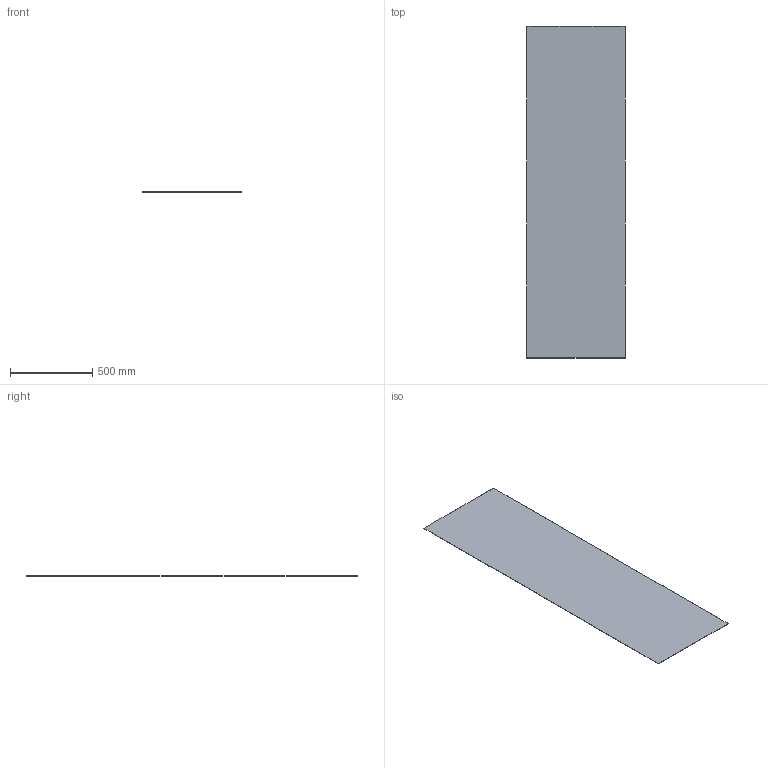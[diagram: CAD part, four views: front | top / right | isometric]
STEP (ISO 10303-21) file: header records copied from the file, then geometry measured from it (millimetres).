
FILE_DESCRIPTION (( 'STEP AP203' ), '1' );
FILE_NAME ('ORW-72.24.10.001 Ñòåíêà çàäíÿÿ.STEP', '2025-10-13T13:18:08', ( 'Àíäðåé' ), ( '' ), 'SwSTEP 2.0', 'SolidWorks 2025', '' );
FILE_SCHEMA (( 'CONFIG_CONTROL_DESIGN' ));
Length unit declared in the file: millimetre
Products named in the file (1): ORW-72.24.10.001 Стенка задняя
Bounding box: 600 x 2015 x 2 mm (x, y, z)
Volume: 2402435.2 mm3; surface area: 2412983.2 mm2
Topology: 1 solids, 1 shells, 58 faces, 168 edges, 112 vertices
Faces by surface type: plane 58
Entity records: 1924 total; most frequent: CARTESIAN_POINT 362, ORIENTED_EDGE 336, DIRECTION 263, EDGE_CURVE 168, VECTOR 145, LINE 145, VERTEX_POINT 112, AXIS2_PLACEMENT_3D 59
